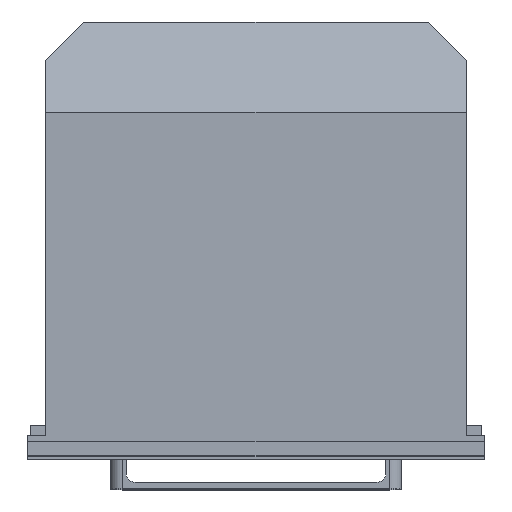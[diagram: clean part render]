
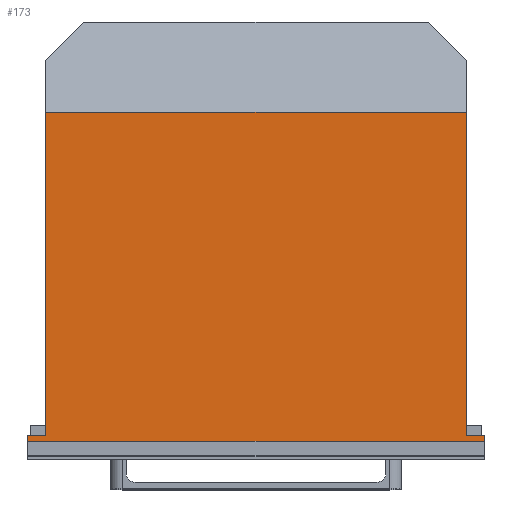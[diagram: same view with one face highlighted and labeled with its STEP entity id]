
A CAD part, top view. The second image highlights one B-rep face of the part: STEP entity #173.
In plain terms, the highlighted planar face has unit normal (0, 0, 1).
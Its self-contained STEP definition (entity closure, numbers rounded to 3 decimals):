
#173=ADVANCED_FACE('',(#353),#271,.T.);
#271=PLANE('',#1861);
#353=FACE_OUTER_BOUND('',#448,.T.);
#448=EDGE_LOOP('',(#636,#637,#638,#639,#640,#641,#642,#643));
#636=ORIENTED_EDGE('',*,*,#1241,.F.);
#637=ORIENTED_EDGE('',*,*,#1217,.T.);
#638=ORIENTED_EDGE('',*,*,#1210,.T.);
#639=ORIENTED_EDGE('',*,*,#1225,.T.);
#640=ORIENTED_EDGE('',*,*,#1242,.F.);
#641=ORIENTED_EDGE('',*,*,#1235,.T.);
#642=ORIENTED_EDGE('',*,*,#1240,.T.);
#643=ORIENTED_EDGE('',*,*,#1229,.F.);
#1040=VERTEX_POINT('',#2510);
#1041=VERTEX_POINT('',#2512);
#1044=VERTEX_POINT('',#2525);
#1049=VERTEX_POINT('',#2539);
#1053=VERTEX_POINT('',#2548);
#1054=VERTEX_POINT('',#2550);
#1059=VERTEX_POINT('',#2561);
#1060=VERTEX_POINT('',#2563);
#1210=EDGE_CURVE('',#1041,#1040,#1453,.T.);
#1217=EDGE_CURVE('',#1044,#1041,#1460,.T.);
#1225=EDGE_CURVE('',#1040,#1049,#1468,.T.);
#1229=EDGE_CURVE('',#1053,#1054,#1472,.T.);
#1235=EDGE_CURVE('',#1060,#1059,#1478,.T.);
#1240=EDGE_CURVE('',#1059,#1054,#1483,.T.);
#1241=EDGE_CURVE('',#1044,#1053,#1484,.T.);
#1242=EDGE_CURVE('',#1060,#1049,#1485,.T.);
#1453=LINE('',#2511,#1663);
#1460=LINE('',#2524,#1670);
#1468=LINE('',#2540,#1678);
#1472=LINE('',#2549,#1682);
#1478=LINE('',#2562,#1688);
#1483=LINE('',#2571,#1693);
#1484=LINE('',#2573,#1694);
#1485=LINE('',#2574,#1695);
#1663=VECTOR('',#2024,1.);
#1670=VECTOR('',#2037,1.);
#1678=VECTOR('',#2049,1.);
#1682=VECTOR('',#2055,1.);
#1688=VECTOR('',#2063,1.);
#1693=VECTOR('',#2072,1.);
#1694=VECTOR('',#2075,1.);
#1695=VECTOR('',#2076,1.);
#1861=AXIS2_PLACEMENT_3D('',#2575,#2077,#2078);
#2024=DIRECTION('',(-1.,0.,0.));
#2037=DIRECTION('',(0.,1.,0.));
#2049=DIRECTION('',(0.,-1.,0.));
#2055=DIRECTION('',(0.,-1.,0.));
#2063=DIRECTION('',(0.,-1.,0.));
#2072=DIRECTION('',(1.,0.,0.));
#2075=DIRECTION('',(1.,0.,0.));
#2076=DIRECTION('',(1.,0.,0.));
#2077=DIRECTION('',(0.,0.,1.));
#2078=DIRECTION('',(-1.,0.,0.));
#2510=CARTESIAN_POINT('',(-275.3,-33.37,331.6));
#2511=CARTESIAN_POINT('',(0.,-33.37,331.6));
#2512=CARTESIAN_POINT('',(275.3,-33.37,331.6));
#2524=CARTESIAN_POINT('',(275.3,-458.2,331.6));
#2525=CARTESIAN_POINT('',(275.3,-456.932,331.6));
#2539=CARTESIAN_POINT('',(-275.3,-456.932,331.6));
#2540=CARTESIAN_POINT('',(-275.3,-1.87,331.6));
#2548=CARTESIAN_POINT('',(298.5,-456.932,331.6));
#2549=CARTESIAN_POINT('',(298.5,-456.932,331.6));
#2550=CARTESIAN_POINT('',(298.5,-464.1,331.6));
#2561=CARTESIAN_POINT('',(-298.5,-464.1,331.6));
#2562=CARTESIAN_POINT('',(-298.5,-456.932,331.6));
#2563=CARTESIAN_POINT('',(-298.5,-456.932,331.6));
#2571=CARTESIAN_POINT('',(-298.5,-464.1,331.6));
#2573=CARTESIAN_POINT('',(-298.5,-456.932,331.6));
#2574=CARTESIAN_POINT('',(-298.5,-456.932,331.6));
#2575=CARTESIAN_POINT('',(-298.5,-456.932,331.6));
